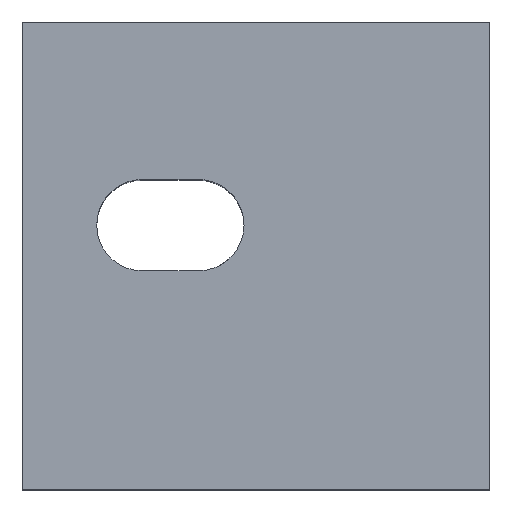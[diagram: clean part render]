
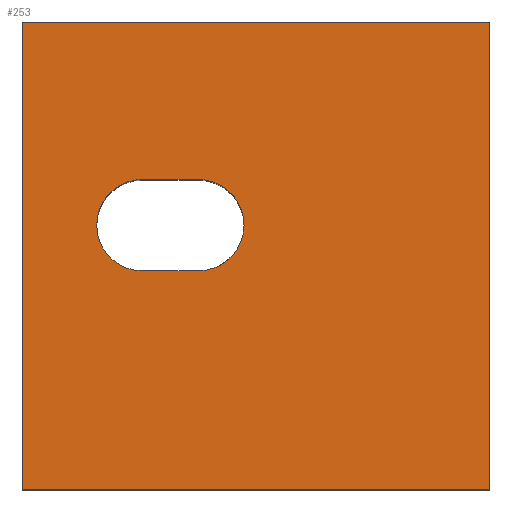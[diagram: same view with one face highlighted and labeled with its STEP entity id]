
A CAD part, top view. The second image highlights one B-rep face of the part: STEP entity #253.
In plain terms, the highlighted planar face has unit normal (0, 0, 1).
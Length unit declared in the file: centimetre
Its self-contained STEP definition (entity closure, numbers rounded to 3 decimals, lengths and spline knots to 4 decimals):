
#14 = VECTOR ( 'NONE', #421, 100. ) ;
#15 = VERTEX_POINT ( 'NONE', #700 ) ;
#29 = AXIS2_PLACEMENT_3D ( 'NONE', #256, #619, #445 ) ;
#44 = CARTESIAN_POINT ( 'NONE',  ( 0., 0., 1000. ) ) ;
#46 = DIRECTION ( 'NONE',  ( 0., 0., -1. ) ) ;
#57 = EDGE_CURVE ( 'NONE', #15, #443, #274, .T. ) ;
#67 = CARTESIAN_POINT ( 'NONE',  ( 0., 0., 1000. ) ) ;
#71 = CARTESIAN_POINT ( 'NONE',  ( 376.5656, 565.1965, 1000. ) ) ;
#92 = VERTEX_POINT ( 'NONE', #169 ) ;
#98 = CARTESIAN_POINT ( 'NONE',  ( 0., 1000., 1000. ) ) ;
#101 = CARTESIAN_POINT ( 'NONE',  ( 256.8509, 565.1965, 1000. ) ) ;
#114 = DIRECTION ( 'NONE',  ( 1., 0., 0. ) ) ;
#118 = PLANE ( 'NONE',  #616 ) ;
#122 = FACE_OUTER_BOUND ( 'NONE', #635, .T. ) ;
#148 = LINE ( 'NONE', #595, #589 ) ;
#160 = LINE ( 'NONE', #98, #568 ) ;
#169 = CARTESIAN_POINT ( 'NONE',  ( 376.5656, 662.9985, 1000. ) ) ;
#185 = EDGE_LOOP ( 'NONE', ( #478, #186, #574, #503, #670 ) ) ;
#186 = ORIENTED_EDGE ( 'NONE', *, *, #677, .T. ) ;
#191 = CARTESIAN_POINT ( 'NONE',  ( 376.5656, 662.9985, 1000. ) ) ;
#193 = VERTEX_POINT ( 'NONE', #217 ) ;
#210 = EDGE_CURVE ( 'NONE', #696, #531, #160, .T. ) ;
#217 = CARTESIAN_POINT ( 'NONE',  ( 376.5656, 467.3945, 1000. ) ) ;
#231 = CARTESIAN_POINT ( 'NONE',  ( 1000., 1000., 1000. ) ) ;
#234 = FACE_BOUND ( 'NONE', #185, .T. ) ;
#252 = CARTESIAN_POINT ( 'NONE',  ( 0., 1000., 1000. ) ) ;
#253 = ADVANCED_FACE ( 'NONE', ( #234, #122 ), #118, .T. ) ;
#256 = CARTESIAN_POINT ( 'NONE',  ( 256.8509, 565.1965, 1000. ) ) ;
#269 = DIRECTION ( 'NONE',  ( -1., 0., 0. ) ) ;
#274 = LINE ( 'NONE', #44, #430 ) ;
#278 = DIRECTION ( 'NONE',  ( 0., 1., 0. ) ) ;
#284 = CIRCLE ( 'NONE', #453, 97.802 ) ;
#298 = EDGE_CURVE ( 'NONE', #193, #432, #646, .T. ) ;
#315 = EDGE_CURVE ( 'NONE', #675, #92, #711, .T. ) ;
#325 = CIRCLE ( 'NONE', #537, 97.802 ) ;
#331 = EDGE_CURVE ( 'NONE', #531, #15, #533, .T. ) ;
#358 = CARTESIAN_POINT ( 'NONE',  ( 0., 1000., 1000. ) ) ;
#361 = DIRECTION ( 'NONE',  ( 0., 0., -1. ) ) ;
#390 = ORIENTED_EDGE ( 'NONE', *, *, #57, .T. ) ;
#395 = VECTOR ( 'NONE', #525, 100. ) ;
#406 = ORIENTED_EDGE ( 'NONE', *, *, #210, .T. ) ;
#417 = DIRECTION ( 'NONE',  ( 0., 0., 1. ) ) ;
#418 = DIRECTION ( 'NONE',  ( 1., 0., 0. ) ) ;
#421 = DIRECTION ( 'NONE',  ( 0., -1., 0. ) ) ;
#430 = VECTOR ( 'NONE', #750, 100. ) ;
#432 = VERTEX_POINT ( 'NONE', #612 ) ;
#443 = VERTEX_POINT ( 'NONE', #448 ) ;
#445 = DIRECTION ( 'NONE',  ( 1., 0., 0. ) ) ;
#446 = EDGE_CURVE ( 'NONE', #443, #696, #148, .T. ) ;
#448 = CARTESIAN_POINT ( 'NONE',  ( 1000., 0., 1000. ) ) ;
#453 = AXIS2_PLACEMENT_3D ( 'NONE', #71, #361, #418 ) ;
#471 = VERTEX_POINT ( 'NONE', #598 ) ;
#478 = ORIENTED_EDGE ( 'NONE', *, *, #585, .T. ) ;
#503 = ORIENTED_EDGE ( 'NONE', *, *, #710, .T. ) ;
#519 = DIRECTION ( 'NONE',  ( 1., 0., 0. ) ) ;
#525 = DIRECTION ( 'NONE',  ( 1., 0., 0. ) ) ;
#531 = VERTEX_POINT ( 'NONE', #252 ) ;
#533 = LINE ( 'NONE', #358, #14 ) ;
#537 = AXIS2_PLACEMENT_3D ( 'NONE', #101, #46, #519 ) ;
#568 = VECTOR ( 'NONE', #269, 100. ) ;
#574 = ORIENTED_EDGE ( 'NONE', *, *, #315, .T. ) ;
#585 = EDGE_CURVE ( 'NONE', #432, #471, #603, .T. ) ;
#589 = VECTOR ( 'NONE', #278, 100. ) ;
#595 = CARTESIAN_POINT ( 'NONE',  ( 1000., 1000., 1000. ) ) ;
#598 = CARTESIAN_POINT ( 'NONE',  ( 159.0489, 565.1965, 1000. ) ) ;
#603 = CIRCLE ( 'NONE', #29, 97.802 ) ;
#612 = CARTESIAN_POINT ( 'NONE',  ( 256.8509, 467.3945, 1000. ) ) ;
#616 = AXIS2_PLACEMENT_3D ( 'NONE', #67, #417, #114 ) ;
#619 = DIRECTION ( 'NONE',  ( 0., 0., -1. ) ) ;
#635 = EDGE_LOOP ( 'NONE', ( #745, #390, #731, #406 ) ) ;
#646 = LINE ( 'NONE', #697, #684 ) ;
#658 = DIRECTION ( 'NONE',  ( -1., 0., 0. ) ) ;
#670 = ORIENTED_EDGE ( 'NONE', *, *, #298, .T. ) ;
#675 = VERTEX_POINT ( 'NONE', #681 ) ;
#677 = EDGE_CURVE ( 'NONE', #471, #675, #325, .T. ) ;
#681 = CARTESIAN_POINT ( 'NONE',  ( 256.8509, 662.9985, 1000. ) ) ;
#684 = VECTOR ( 'NONE', #658, 100. ) ;
#696 = VERTEX_POINT ( 'NONE', #231 ) ;
#697 = CARTESIAN_POINT ( 'NONE',  ( 256.8509, 467.3945, 1000. ) ) ;
#700 = CARTESIAN_POINT ( 'NONE',  ( 0., 0., 1000. ) ) ;
#710 = EDGE_CURVE ( 'NONE', #92, #193, #284, .T. ) ;
#711 = LINE ( 'NONE', #191, #395 ) ;
#731 = ORIENTED_EDGE ( 'NONE', *, *, #446, .T. ) ;
#745 = ORIENTED_EDGE ( 'NONE', *, *, #331, .T. ) ;
#750 = DIRECTION ( 'NONE',  ( 1., 0., 0. ) ) ;
